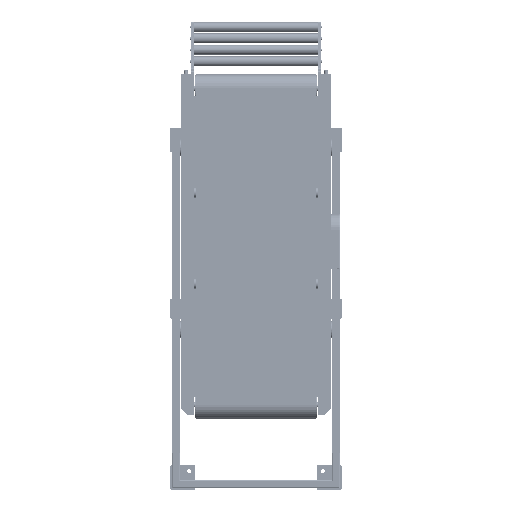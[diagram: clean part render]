
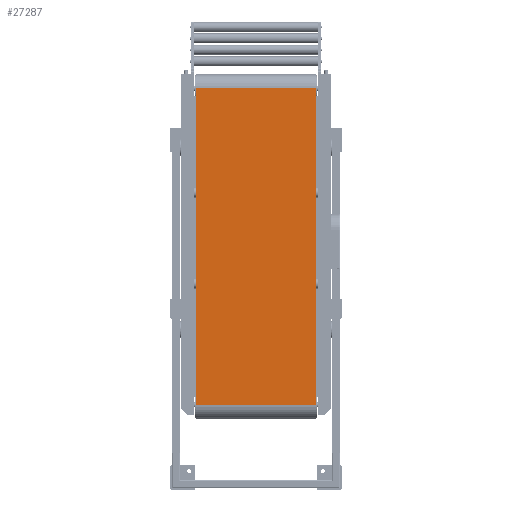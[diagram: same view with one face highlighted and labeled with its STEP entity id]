
A CAD part, top view. The second image highlights one B-rep face of the part: STEP entity #27287.
In plain terms, the highlighted planar face has unit normal (0, 0, 1) as drawn and (0, 1, 0) by its records, which use the part's own axes.
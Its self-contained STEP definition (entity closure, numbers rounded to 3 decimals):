
#20547=PLANE('',#144069);
#27287=ADVANCED_FACE('',(#36518),#20547,.T.);
#36518=FACE_OUTER_BOUND('',#44171,.T.);
#44171=EDGE_LOOP('',(#86916,#86917,#86918,#86919));
#52085=LINE('',#225246,#60157);
#52096=LINE('',#225279,#60168);
#52106=LINE('',#225308,#60178);
#52111=LINE('',#225321,#60183);
#60157=VECTOR('',#171046,1.);
#60168=VECTOR('',#171079,1.);
#60178=VECTOR('',#171115,1.);
#60183=VECTOR('',#171136,1.);
#86916=ORIENTED_EDGE('',*,*,#122740,.F.);
#86917=ORIENTED_EDGE('',*,*,#122726,.F.);
#86918=ORIENTED_EDGE('',*,*,#122745,.F.);
#86919=ORIENTED_EDGE('',*,*,#122706,.F.);
#106998=VERTEX_POINT('',#225245);
#106999=VERTEX_POINT('',#225247);
#107009=VERTEX_POINT('',#225278);
#107010=VERTEX_POINT('',#225280);
#122706=EDGE_CURVE('',#106998,#106999,#52085,.T.);
#122726=EDGE_CURVE('',#107009,#107010,#52096,.T.);
#122740=EDGE_CURVE('',#107010,#106998,#52106,.T.);
#122745=EDGE_CURVE('',#106999,#107009,#52111,.T.);
#144069=AXIS2_PLACEMENT_3D('',#225323,#171139,#171140);
#171046=DIRECTION('',(-1.,0.,0.));
#171079=DIRECTION('',(1.,0.,0.));
#171115=DIRECTION('',(0.,0.,1.));
#171136=DIRECTION('',(0.,0.,-1.));
#171139=DIRECTION('',(0.,1.,0.));
#171140=DIRECTION('',(1.,0.,0.));
#225245=CARTESIAN_POINT('',(856.,440.5,365.));
#225246=CARTESIAN_POINT('',(-99.999,440.5,365.));
#225247=CARTESIAN_POINT('',(-1056.,440.5,365.));
#225278=CARTESIAN_POINT('',(-1056.,440.5,-365.));
#225279=CARTESIAN_POINT('',(-99.999,440.5,-365.));
#225280=CARTESIAN_POINT('',(856.,440.5,-365.));
#225308=CARTESIAN_POINT('',(856.,440.5,0.));
#225321=CARTESIAN_POINT('',(-1056.,440.5,0.));
#225323=CARTESIAN_POINT('',(856.01,440.5,-365.01));
